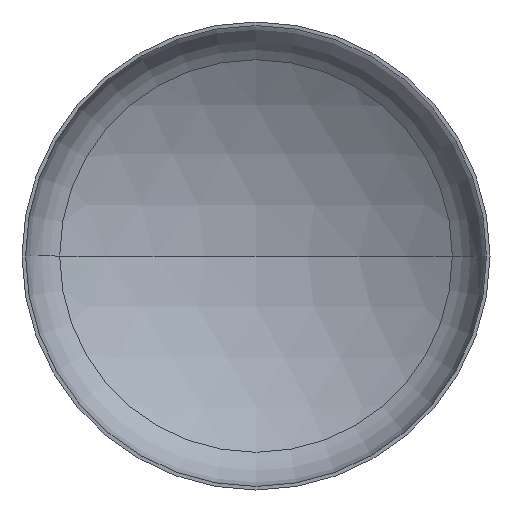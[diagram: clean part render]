
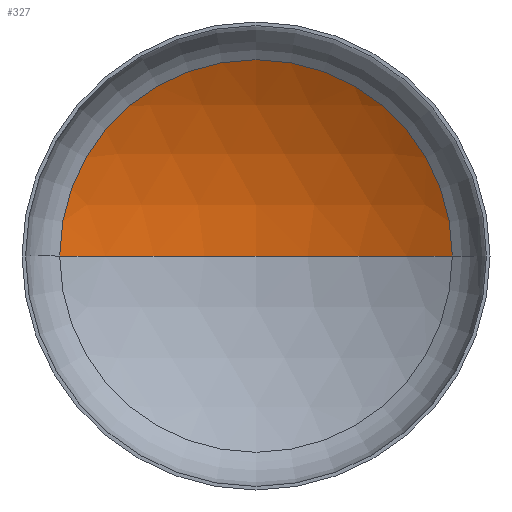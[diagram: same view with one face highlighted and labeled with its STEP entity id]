
A CAD part, front view. The second image highlights one B-rep face of the part: STEP entity #327.
In plain terms, the highlighted spherical face has radius 2400 mm.
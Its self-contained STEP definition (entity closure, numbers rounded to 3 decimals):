
#5 = ORIENTED_EDGE ( 'NONE', *, *, #172, .T. ) ;
#17 = ORIENTED_EDGE ( 'NONE', *, *, #191, .T. ) ;
#26 = EDGE_LOOP ( 'NONE', ( #71, #17, #5 ) ) ;
#44 = AXIS2_PLACEMENT_3D ( 'NONE', #264, #198, #218 ) ;
#65 = AXIS2_PLACEMENT_3D ( 'NONE', #111, #270, #289 ) ;
#68 = CIRCLE ( 'NONE', #73, 2400. ) ;
#71 = ORIENTED_EDGE ( 'NONE', *, *, #197, .F. ) ;
#73 = AXIS2_PLACEMENT_3D ( 'NONE', #169, #168, #166 ) ;
#74 = AXIS2_PLACEMENT_3D ( 'NONE', #184, #176, #174 ) ;
#92 = VERTEX_POINT ( 'NONE', #151 ) ;
#107 = VERTEX_POINT ( 'NONE', #195 ) ;
#111 = CARTESIAN_POINT ( 'NONE',  ( 0., -1582.063, 0. ) ) ;
#151 = CARTESIAN_POINT ( 'NONE',  ( 0., 817.937, 0. ) ) ;
#166 = DIRECTION ( 'NONE',  ( -1., 0., 0. ) ) ;
#168 = DIRECTION ( 'NONE',  ( 0., 0., -1. ) ) ;
#169 = CARTESIAN_POINT ( 'NONE',  ( 0., -1582.063, 0. ) ) ;
#172 = EDGE_CURVE ( 'NONE', #303, #107, #333, .T. ) ;
#174 = DIRECTION ( 'NONE',  ( 1., 0., 0. ) ) ;
#176 = DIRECTION ( 'NONE',  ( 0., -1., 0. ) ) ;
#184 = CARTESIAN_POINT ( 'NONE',  ( 0., 461.726, 0. ) ) ;
#191 = EDGE_CURVE ( 'NONE', #92, #303, #68, .T. ) ;
#195 = CARTESIAN_POINT ( 'NONE',  ( -1258.144, 461.726, 0. ) ) ;
#197 = EDGE_CURVE ( 'NONE', #92, #107, #378, .T. ) ;
#198 = DIRECTION ( 'NONE',  ( 0., 0., -1. ) ) ;
#200 = CARTESIAN_POINT ( 'NONE',  ( 1258.144, 461.726, 0. ) ) ;
#218 = DIRECTION ( 'NONE',  ( -1., 0., 0. ) ) ;
#255 = FACE_OUTER_BOUND ( 'NONE', #26, .T. ) ;
#264 = CARTESIAN_POINT ( 'NONE',  ( 0., -1582.063, 0. ) ) ;
#270 = DIRECTION ( 'NONE',  ( 0., 0., 1. ) ) ;
#289 = DIRECTION ( 'NONE',  ( 1., 0., 0. ) ) ;
#303 = VERTEX_POINT ( 'NONE', #200 ) ;
#327 = ADVANCED_FACE ( 'NONE', ( #255 ), #362, .F. ) ;
#333 = CIRCLE ( 'NONE', #74, 1258.144 ) ;
#362 = SPHERICAL_SURFACE ( 'NONE', #44, 2400. ) ;
#378 = CIRCLE ( 'NONE', #65, 2400. ) ;
